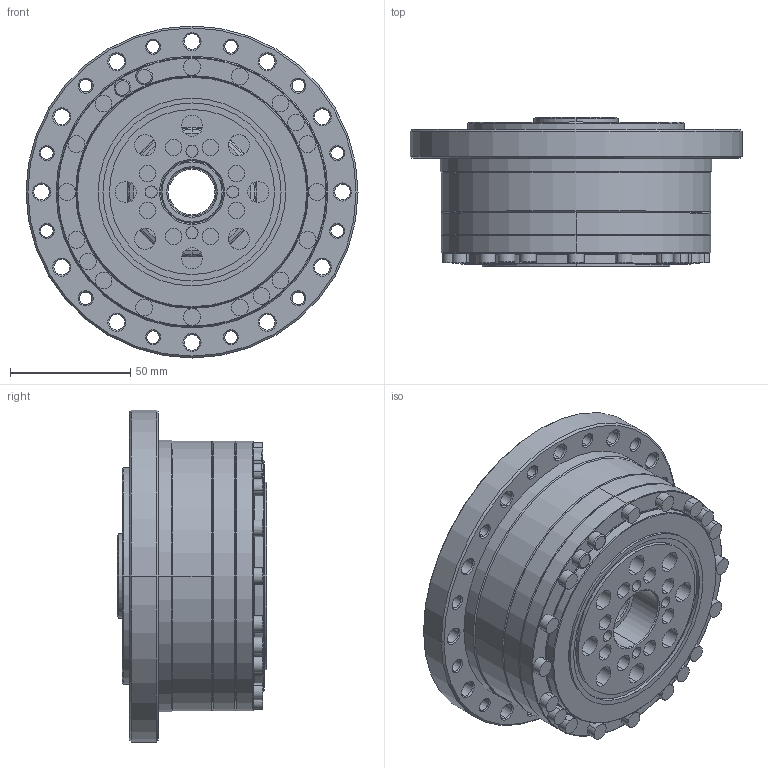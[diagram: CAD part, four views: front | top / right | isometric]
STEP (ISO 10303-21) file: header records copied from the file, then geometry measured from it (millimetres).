
FILE_DESCRIPTION((''),'2;1');
FILE_NAME('LSS-32-U-I_ASM','2017-09-16T',('Administrator'),(''),'PRO/ENGINEER BY PARAMETRIC TECHNOLOGY CORPORATION, 2014200','PRO/ENGINEER BY PARAMETRIC TECHNOLOGY CORPORATION, 2014200','');
FILE_SCHEMA(('AUTOMOTIVE_DESIGN { 1 0 10303 214 1 1 1 1 }'));
Length unit declared in the file: millimetre
Products named in the file (33): MANIFOLD_SOLID_BREP_4728_1; MANIFOLD_SOLID_BREP_4729_1; MANIFOLD_SOLID_BREP_4730_1; MANIFOLD_SOLID_BREP_4731_1; MANIFOLD_SOLID_BREP_4732_1; MANIFOLD_SOLID_BREP_4733_1; MANIFOLD_SOLID_BREP_4734_1; MANIFOLD_SOLID_BREP_4735_1; MANIFOLD_SOLID_BREP_4736_1; MANIFOLD_SOLID_BREP_4737_1; MANIFOLD_SOLID_BREP_4738_1; MANIFOLD_SOLID_BREP_4739_1; MANIFOLD_SOLID_BREP_4740_1; MANIFOLD_SOLID_BREP_4741_1; MANIFOLD_SOLID_BREP_4742_1; MANIFOLD_SOLID_BREP_4743_1; MANIFOLD_SOLID_BREP_4744_1; MANIFOLD_SOLID_BREP_4745_1; MANIFOLD_SOLID_BREP_4746_1; MANIFOLD_SOLID_BREP_4747_1; MANIFOLD_SOLID_BREP_4748_1; MANIFOLD_SOLID_BREP_4749_1; MANIFOLD_SOLID_BREP_4750_1; MANIFOLD_SOLID_BREP_4751_1; MANIFOLD_SOLID_BREP_4752_1; MANIFOLD_SOLID_BREP_4753_1; MANIFOLD_SOLID_BREP_4754_1; MANIFOLD_SOLID_BREP_4755_1; MANIFOLD_SOLID_BREP_4756_1; MANIFOLD_SOLID_BREP_4757_1; ADMI7ED1CHDA_ASM_1_ASM; LSS-32_ASM_1_ASM; LSS-32-U-I_ASM
Assembly tree (32 placements, depth 4):
  LSS-32-U-I_ASM
    LSS-32_ASM_1_ASM
      ADMI7ED1CHDA_ASM_1_ASM
        MANIFOLD_SOLID_BREP_4728_1
        MANIFOLD_SOLID_BREP_4729_1
        MANIFOLD_SOLID_BREP_4730_1
        MANIFOLD_SOLID_BREP_4731_1
        MANIFOLD_SOLID_BREP_4732_1
        MANIFOLD_SOLID_BREP_4733_1
        MANIFOLD_SOLID_BREP_4734_1
        MANIFOLD_SOLID_BREP_4735_1
        MANIFOLD_SOLID_BREP_4736_1
        MANIFOLD_SOLID_BREP_4737_1
        MANIFOLD_SOLID_BREP_4738_1
        MANIFOLD_SOLID_BREP_4739_1
        MANIFOLD_SOLID_BREP_4740_1
        MANIFOLD_SOLID_BREP_4741_1
        MANIFOLD_SOLID_BREP_4742_1
        MANIFOLD_SOLID_BREP_4743_1
        MANIFOLD_SOLID_BREP_4744_1
        MANIFOLD_SOLID_BREP_4745_1
        MANIFOLD_SOLID_BREP_4746_1
        MANIFOLD_SOLID_BREP_4747_1
        MANIFOLD_SOLID_BREP_4748_1
        MANIFOLD_SOLID_BREP_4749_1
        MANIFOLD_SOLID_BREP_4750_1
        MANIFOLD_SOLID_BREP_4751_1
        MANIFOLD_SOLID_BREP_4752_1
        MANIFOLD_SOLID_BREP_4753_1
        MANIFOLD_SOLID_BREP_4754_1
        MANIFOLD_SOLID_BREP_4755_1
        MANIFOLD_SOLID_BREP_4756_1
        MANIFOLD_SOLID_BREP_4757_1
Bounding box: 138 x 62 x 138 mm (x, y, z)
Volume: 456033.7 mm3; surface area: 151188 mm2
Topology: 30 solids, 30 shells, 887 faces, 2452 edges, 1596 vertices
Faces by surface type: cylinder 393, cone 234, plane 136, sphere 76, torus 44, revolution 4
Entity records: 38327 total; most frequent: DIRECTION 5952, CARTESIAN_POINT 5105, ORIENTED_EDGE 4680, AXIS2_PLACEMENT_3D 2633, PRESENTATION_STYLE_ASSIGNMENT 2370, STYLED_ITEM 2370, CURVE_STYLE 2340, EDGE_CURVE 2340
